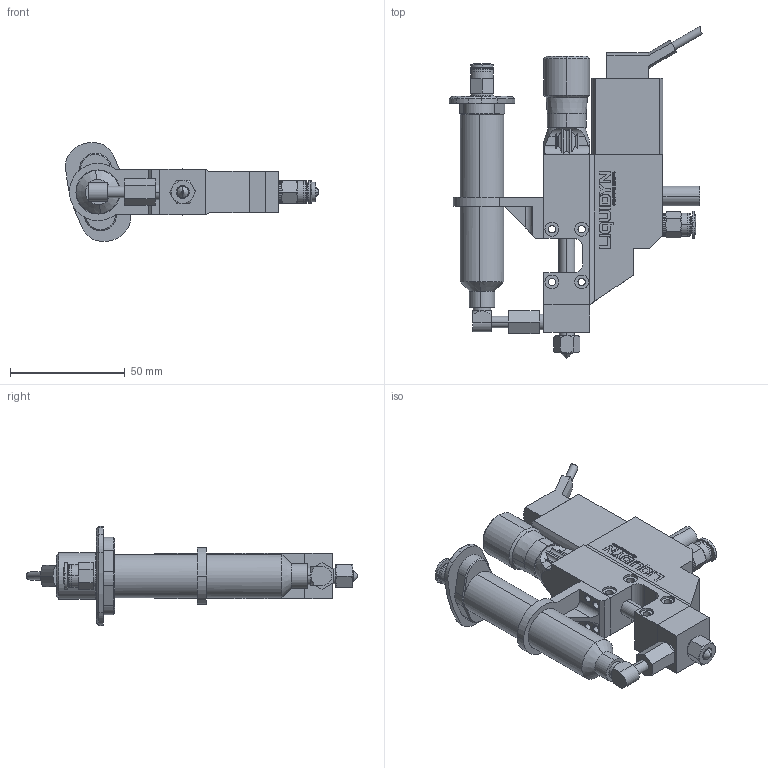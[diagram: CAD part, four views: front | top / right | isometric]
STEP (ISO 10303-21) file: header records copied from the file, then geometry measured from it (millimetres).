
FILE_DESCRIPTION (( 'STEP AP214' ), '1' );
FILE_NAME ('NORDSONEFD-7825004 LQ VALVE PJET-CT.STEP', '2018-12-21T08:01:18', ( '' ), ( '' ), 'SwSTEP 2.0', 'SolidWorks 2018', '' );
FILE_SCHEMA (( 'AUTOMOTIVE_DESIGN' ));
Length unit declared in the file: inch
Products named in the file (1): NORDSONEFD-7825004  LQ VALVE PJET-CT
Bounding box: 110.56 x 144.95 x 43.24 mm (x, y, z)
Volume: 116856.8 mm3; surface area: 36331.5 mm2
Topology: 10 solids, 10 shells, 800 faces, 2019 edges, 1297 vertices
Faces by surface type: plane 318, cylinder 180, bspline 160, cone 130, torus 12
Entity records: 36802 total; most frequent: CARTESIAN_POINT 18469, ORIENTED_EDGE 4024, DIRECTION 3261, EDGE_CURVE 2012, VERTEX_POINT 1296, AXIS2_PLACEMENT_3D 1092, LINE 1077, VECTOR 1077
